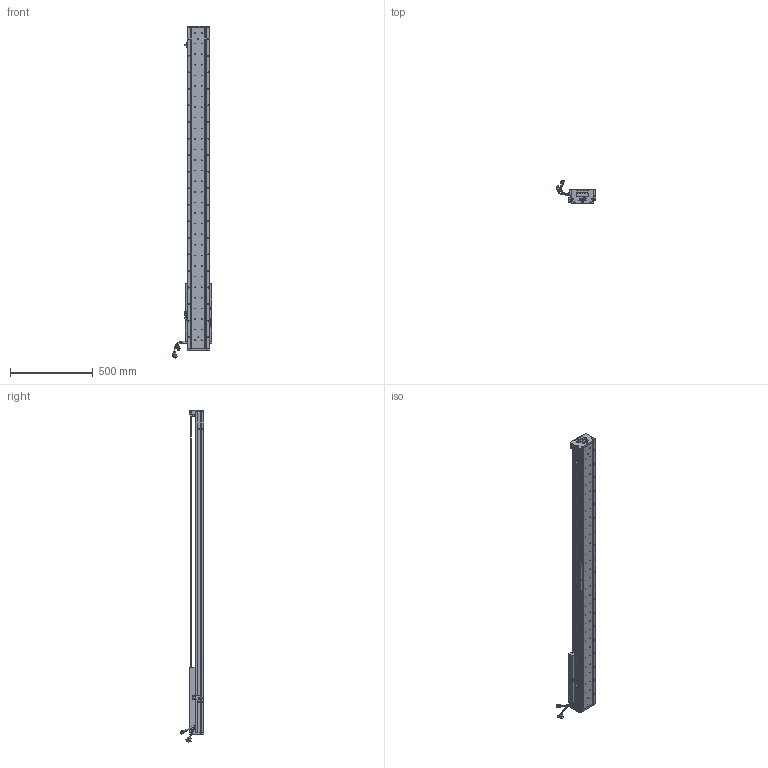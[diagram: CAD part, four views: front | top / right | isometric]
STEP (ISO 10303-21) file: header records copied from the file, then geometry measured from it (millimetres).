
FILE_DESCRIPTION (( 'STEP AP203' ), '1' );
FILE_NAME ('Z5-RY140D-1-L500-B-K.SLDASM_1500.step', '2021-05-17T08:36:57', ( '盈信电脑' ), ( '东莞市道滘镇水果街19号' ), 'SwSTEP 2.0', 'SolidWorks 2016', '' );
FILE_SCHEMA (( 'CONFIG_CONTROL_DESIGN' ));
Length unit declared in the file: millimetre
Products named in the file (36): Z5-RY140圉猾敕臏賑輸(21遴); SEAL-Part-1; SCREW-M1.7; HARNESS-Part-1; 榋妏寠巭燃_暯_M2_2; Z5-RY140D-1-L500-B-K.SLDASM_1500; 詩湍狟揤裔; Z5-RY140-L500詩湍100mm遵_1500; 140蚥薯蝶輸; LABEL-Part-1; SCREW-M1.6-1; SCREW-M1.6; COVER; Z-RY140感应器672光电感应片; 140雄赽晤鎢ん堤盄; Z-140詩湍傷裔啣; SCREW-M1.6-2; HARNESS-Part-2; SHIELDPLATE; PBU_SHEET; SCALE; HOLDER0; SCREW-M1.6-3; SCREW-M1.7-1; 詩湍奻揤裔; SCALE-Part-2; COVER-Part-1; Z5-RY140-L500直线电机模组底座_1500; LABEL; SCALE-Part-1; PSLH080_PSLF2; 覜茼ん672; 080黍杅芛假蚾釱21遴; HARNESS; 140-Z-臏賑輸盄裔(21遴); SEAL
Assembly tree (41 placements, depth 4):
  Z5-RY140D-1-L500-B-K.SLDASM_1500
    Z5-RY140-L500直线电机模组底座_1500
    Z-RY140感应器672光电感应片
    Z5-RY140圉猾敕臏賑輸(21遴)
    覜茼ん672  x3
    Z5-RY140-L500詩湍100mm遵_1500
    PSLH080_PSLF2
      SCALE
        SCALE-Part-1
        SCALE-Part-2
      HARNESS
        HARNESS-Part-1
        HARNESS-Part-2
      LABEL
        LABEL-Part-1
      COVER
        COVER-Part-1
      SEAL
        SEAL-Part-1
      榋妏寠巭燃_暯_M2_2
      SHIELDPLATE
      SCREW-M1.7
      SCREW-M1.7-1
      PBU_SHEET
      SCREW-M1.6
      SCREW-M1.6-1
      SCREW-M1.6-2
      SCREW-M1.6-3
      HOLDER0
    080黍杅芛假蚾釱21遴
    140-Z-臏賑輸盄裔(21遴)
    Z-140詩湍傷裔啣  x2
    詩湍狟揤裔  x2
    詩湍奻揤裔  x2
    140蚥薯蝶輸  x2
    140雄赽晤鎢ん堤盄
Bounding box: 239.84 x 143.88 x 2005.87 mm (x, y, z)
Volume: 7067660.7 mm3; surface area: 1796410.2 mm2
Topology: 36 solids, 36 shells, 3690 faces, 9922 edges, 6285 vertices
Faces by surface type: cylinder 1924, plane 1282, cone 362, torus 69, bspline 53
Entity records: 113982 total; most frequent: CARTESIAN_POINT 30825, ORIENTED_EDGE 16844, DIRECTION 16046, EDGE_CURVE 8422, AXIS2_PLACEMENT_3D 5970, VERTEX_POINT 5453, VECTOR 4106, LINE 4106
